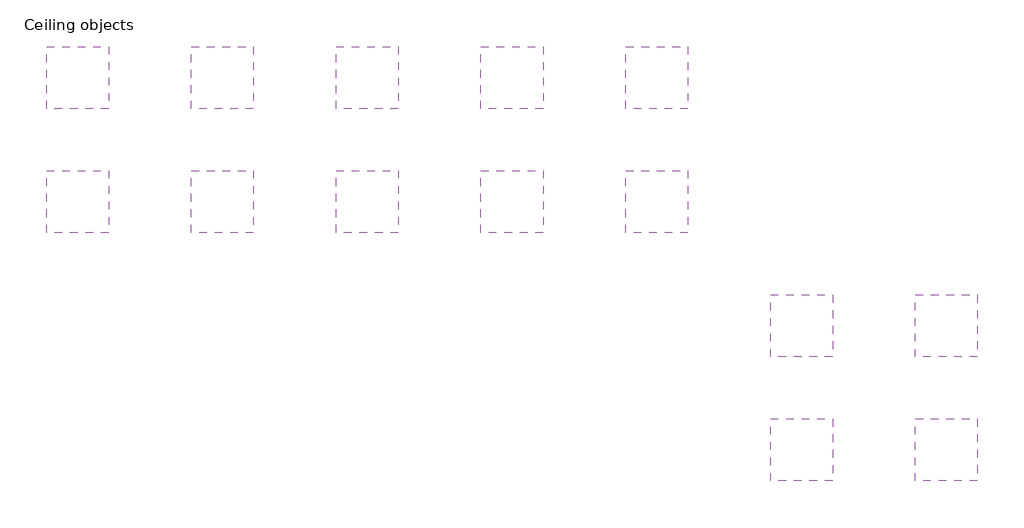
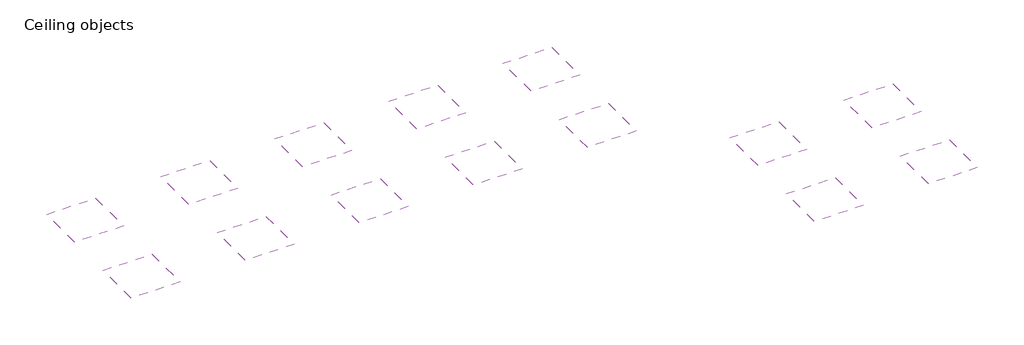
# One storey: 14 coverings.
"""IFC4 building model written with IfcOpenShell, lengths in millimetres."""

from ifc_helpers import new_model, si_unit, frame, origin, place, context, project, spatial, polyline, outline, extrude, element, save

model = new_model("IFC4")

# Units and contexts
model_context = context("Model", 3, world=origin())
ifc_project = project(units=[si_unit("LENGTHUNIT", "METRE", prefix="MILLI")], contexts=[model_context])

# Site, building, storey
site = spatial("IfcSite", under=ifc_project)
building = spatial("IfcBuilding", under=site)
storey = spatial("IfcBuildingStorey", under=building, Name="Ceiling objects", Elevation=0.0)

# Coverings
placement = place(None, origin())
element("IfcCovering", 1, ObjectType="Knauf Danoline Belgravia Globe 600x600x12.5_S15_E", at=placement, inside=storey, context=model_context, shape_type="SweptSolid", body=[
    extrude(outline(polyline([(-4783.0103193, 8117.0281757), (-4783.0103193, 5117.0281757), (-7783.0103193, 5117.0281757), (-7783.0103193, 8117.0281757), (-4783.0103193, 8117.0281757)])), frame((0.0, 0.0, 2600.0), z_axis=(0.0, 0.0, 1.0), x_axis=(1.0, 0.0, 0.0)), (0.0, 0.0, 1.0), 46.0000015),
])
element("IfcCovering", 2, ObjectType="Knauf Danoline Belgravia Globe 600x600x12.5_S24_E", at=placement, inside=storey, context=model_context, shape_type="SweptSolid", body=[
    extrude(outline(polyline([(-4783.0103193, 2117.0279837), (-4783.0103193, -882.9720163), (-7783.0103193, -882.9720163), (-7783.0103193, 2117.0279837), (-4783.0103193, 2117.0279837)])), frame((0.0, 0.0, 2600.0), z_axis=(0.0, 0.0, 1.0), x_axis=(1.0, 0.0, 0.0)), (0.0, 0.0, 1.0), 46.0000015),
])
element("IfcCovering", 3, ObjectType="Knauf Danoline Belgravia Micro 600x600x12.5_S15_E", at=placement, inside=storey, context=model_context, shape_type="SweptSolid", body=[
    extrude(outline(polyline([(2216.9899047, 8117.0281757), (2216.9899047, 5117.0281757), (-783.0100953, 5117.0281757), (-783.0100953, 8117.0281757), (2216.9899047, 8117.0281757)])), frame((0.0, 0.0, 2600.0), z_axis=(0.0, 0.0, 1.0), x_axis=(1.0, 0.0, 0.0)), (0.0, 0.0, 1.0), 46.0000015),
])
element("IfcCovering", 4, ObjectType="Knauf Danoline Belgravia Micro 600x600x12.5_S24_E", at=placement, inside=storey, context=model_context, shape_type="SweptSolid", body=[
    extrude(outline(polyline([(2216.9899047, 2117.0279837), (2216.9899047, -882.9720163), (-783.0100953, -882.9720163), (-783.0100953, 2117.0279837), (2216.9899047, 2117.0279837)])), frame((0.0, 0.0, 2600.0), z_axis=(0.0, 0.0, 1.0), x_axis=(1.0, 0.0, 0.0)), (0.0, 0.0, 1.0), 46.0000015),
])
element("IfcCovering", 5, ObjectType="Knauf Danoline Belgravia Quadril 600x600x12.5_S15_E", at=placement, inside=storey, context=model_context, shape_type="SweptSolid", body=[
    extrude(outline(polyline([(9216.9901287, 8117.0281757), (9216.9901287, 5117.0281757), (6216.9901287, 5117.0281757), (6216.9901287, 8117.0281757), (9216.9901287, 8117.0281757)])), frame((0.0, 0.0, 2600.0), z_axis=(0.0, 0.0, 1.0), x_axis=(1.0, 0.0, 0.0)), (0.0, 0.0, 1.0), 46.0000015),
])
element("IfcCovering", 6, ObjectType="Knauf Danoline Belgravia Quadril 600x600x12.5_S24_E", at=placement, inside=storey, context=model_context, shape_type="SweptSolid", body=[
    extrude(outline(polyline([(9216.9901287, 2117.0279837), (9216.9901287, -882.9720163), (6216.9901287, -882.9720163), (6216.9901287, 2117.0279837), (9216.9901287, 2117.0279837)])), frame((0.0, 0.0, 2600.0), z_axis=(0.0, 0.0, 1.0), x_axis=(1.0, 0.0, 0.0)), (0.0, 0.0, 1.0), 46.0000015),
])
element("IfcCovering", 7, ObjectType="Knauf Danoline Belgravia Regular 600x600x12.5_S15_E", at=placement, inside=storey, context=model_context, shape_type="SweptSolid", body=[
    extrude(outline(polyline([(16216.9903527, 8117.0281757), (16216.9903527, 5117.0281757), (13216.9903527, 5117.0281757), (13216.9903527, 8117.0281757), (16216.9903527, 8117.0281757)])), frame((0.0, 0.0, 2600.0), z_axis=(0.0, 0.0, 1.0), x_axis=(1.0, 0.0, 0.0)), (0.0, 0.0, 1.0), 46.0000015),
])
element("IfcCovering", 8, ObjectType="Knauf Danoline Belgravia Regular 600x600x12.5_S24_E", at=placement, inside=storey, context=model_context, shape_type="SweptSolid", body=[
    extrude(outline(polyline([(16216.9903527, 2117.0279837), (16216.9903527, -882.9720163), (13216.9903527, -882.9720163), (13216.9903527, 2117.0279837), (16216.9903527, 2117.0279837)])), frame((0.0, 0.0, 2600.0), z_axis=(0.0, 0.0, 1.0), x_axis=(1.0, 0.0, 0.0)), (0.0, 0.0, 1.0), 46.0000015),
])
element("IfcCovering", 9, ObjectType="Knauf Danoline Belgravia Tangent 600x600x12.5_S15_E", at=placement, inside=storey, context=model_context, shape_type="SweptSolid", body=[
    extrude(outline(polyline([(23216.9905767, 8117.0281757), (23216.9905767, 5117.0281757), (20216.9905767, 5117.0281757), (20216.9905767, 8117.0281757), (23216.9905767, 8117.0281757)])), frame((0.0, 0.0, 2600.0), z_axis=(0.0, 0.0, 1.0), x_axis=(1.0, 0.0, 0.0)), (0.0, 0.0, 1.0), 46.0000015),
])
element("IfcCovering", 10, ObjectType="Knauf Danoline Belgravia Tangent 600x600x12.5_S24_E", at=placement, inside=storey, context=model_context, shape_type="SweptSolid", body=[
    extrude(outline(polyline([(23216.9905767, 2117.0279837), (23216.9905767, -882.9720163), (20216.9905767, -882.9720163), (20216.9905767, 2117.0279837), (23216.9905767, 2117.0279837)])), frame((0.0, 0.0, 2600.0), z_axis=(0.0, 0.0, 1.0), x_axis=(1.0, 0.0, 0.0)), (0.0, 0.0, 1.0), 46.0000015),
])
element("IfcCovering", 11, ObjectType="Knauf Danoline Belgravia Unity 3 600x600x12.5_S15_E+", at=placement, inside=storey, context=model_context, shape_type="SweptSolid", body=[
    extrude(outline(polyline([(30216.9908007, -3882.9722083), (30216.9908007, -6882.9722083), (27216.9908007, -6882.9722083), (27216.9908007, -3882.9722083), (30216.9908007, -3882.9722083)])), frame((0.0, 0.0, 2600.0), z_axis=(0.0, 0.0, 1.0), x_axis=(1.0, 0.0, 0.0)), (0.0, 0.0, 1.0), 46.0000015),
])
element("IfcCovering", 12, ObjectType="Knauf Danoline Belgravia Unity 3 600x600x12.5_S24_E+", at=placement, inside=storey, context=model_context, shape_type="SweptSolid", body=[
    extrude(outline(polyline([(30216.9908007, -9882.9724003), (30216.9908007, -12882.9724003), (27216.9908007, -12882.9724003), (27216.9908007, -9882.9724003), (30216.9908007, -9882.9724003)])), frame((0.0, 0.0, 2600.0), z_axis=(0.0, 0.0, 1.0), x_axis=(1.0, 0.0, 0.0)), (0.0, 0.0, 1.0), 46.0000015),
])
element("IfcCovering", 13, ObjectType="Knauf Danoline Belgravia Unity 8-15-20 600x600x12.5_S15_E+", at=placement, inside=storey, context=model_context, shape_type="SweptSolid", body=[
    extrude(outline(polyline([(37216.9910247, -3882.9722083), (37216.9910247, -6882.9722083), (34216.9910247, -6882.9722083), (34216.9910247, -3882.9722083), (37216.9910247, -3882.9722083)])), frame((0.0, 0.0, 2600.0), z_axis=(0.0, 0.0, 1.0), x_axis=(1.0, 0.0, 0.0)), (0.0, 0.0, 1.0), 46.0000015),
])
element("IfcCovering", 14, ObjectType="Knauf Danoline Belgravia Unity 8-15-20 600x600x12.5_S24_E+", at=placement, inside=storey, context=model_context, shape_type="SweptSolid", body=[
    extrude(outline(polyline([(37216.9910247, -9882.9724003), (37216.9910247, -12882.9724003), (34216.9910247, -12882.9724003), (34216.9910247, -9882.9724003), (37216.9910247, -9882.9724003)])), frame((0.0, 0.0, 2600.0), z_axis=(0.0, 0.0, 1.0), x_axis=(1.0, 0.0, 0.0)), (0.0, 0.0, 1.0), 46.0000015),
])

save(model, "model.ifc")
